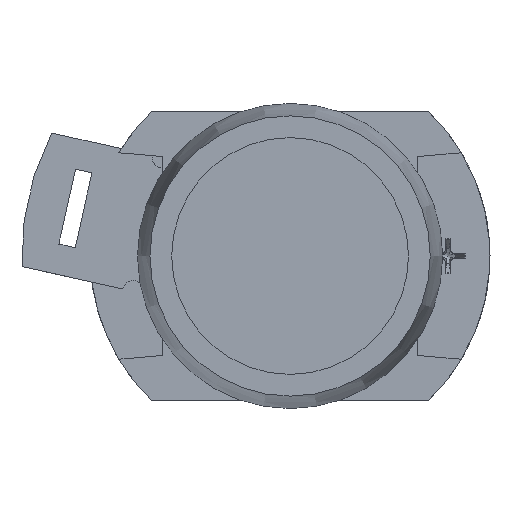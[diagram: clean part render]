
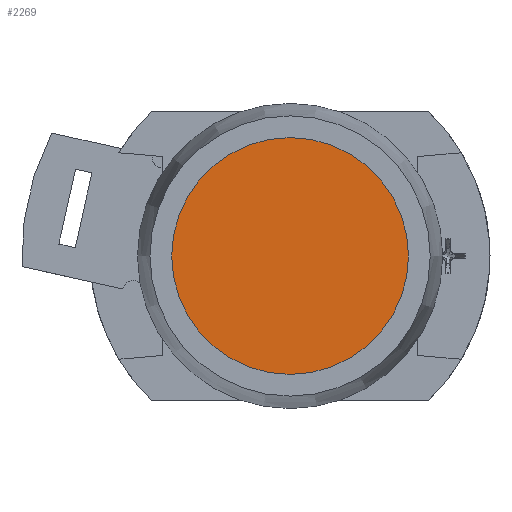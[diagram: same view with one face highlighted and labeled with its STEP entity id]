
A CAD part, left-side view. The second image highlights one B-rep face of the part: STEP entity #2269.
In plain terms, the highlighted planar face has unit normal (-1, 0, 0).
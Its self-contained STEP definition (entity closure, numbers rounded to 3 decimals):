
#1738 = EDGE_LOOP ( 'NONE', ( #3061 ) ) ;
#2269 = ADVANCED_FACE ( 'NONE', ( #7775 ), #7666, .T. ) ;
#2503 = EDGE_CURVE ( 'NONE', #10476, #10476, #8094, .T. ) ;
#3061 = ORIENTED_EDGE ( 'NONE', *, *, #2503, .T. ) ;
#5820 = AXIS2_PLACEMENT_3D ( 'NONE', #7669, #7674, #7675 ) ;
#7666 = PLANE ( 'NONE',  #5820 ) ;
#7669 = CARTESIAN_POINT ( 'NONE',  ( 1., 5.625, 0. ) ) ;
#7674 = DIRECTION ( 'NONE',  ( -1., 0., 0. ) ) ;
#7675 = DIRECTION ( 'NONE',  ( 0., 0., 1. ) ) ;
#7775 = FACE_OUTER_BOUND ( 'NONE', #1738, .T. ) ;
#8094 = CIRCLE ( 'NONE', #9480, 11.25 ) ;
#8845 = CARTESIAN_POINT ( 'NONE',  ( 1., 0., 0. ) ) ;
#8847 = DIRECTION ( 'NONE',  ( -1., 0., 0. ) ) ;
#8848 = DIRECTION ( 'NONE',  ( 0., 0., -1. ) ) ;
#9480 = AXIS2_PLACEMENT_3D ( 'NONE', #8845, #8847, #8848 ) ;
#10476 = VERTEX_POINT ( 'NONE', #10477 ) ;
#10477 = CARTESIAN_POINT ( 'NONE',  ( 1., 0., -11.25 ) ) ;
